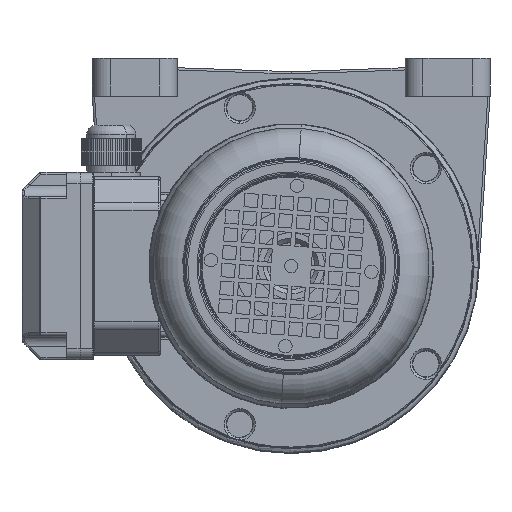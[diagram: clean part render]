
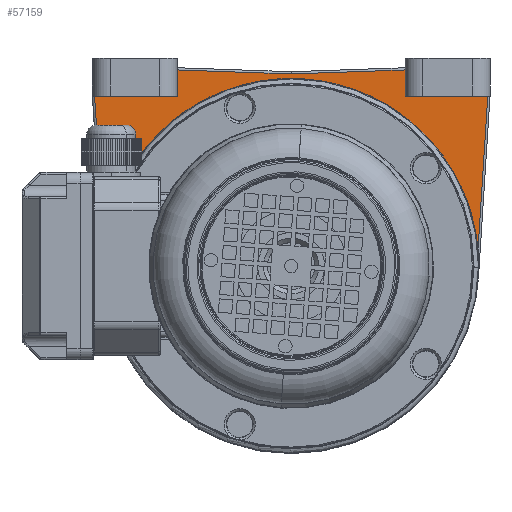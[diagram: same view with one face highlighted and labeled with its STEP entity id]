
A CAD part, front view. The second image highlights one B-rep face of the part: STEP entity #57159.
In plain terms, the highlighted planar face has unit normal (0, -1, 0).
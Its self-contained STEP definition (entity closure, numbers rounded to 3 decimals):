
#1699 = LINE ( 'NONE', #59298, #79760 ) ;
#1724 = CARTESIAN_POINT ( 'NONE',  ( -37.553, -29.796, 76. ) ) ;
#2265 = DIRECTION ( 'NONE',  ( 0.063, 0., 0.998 ) ) ;
#2788 = CARTESIAN_POINT ( 'NONE',  ( -37.588, -29.796, 87.782 ) ) ;
#4461 = CARTESIAN_POINT ( 'NONE',  ( 13.447, -29.796, 76. ) ) ;
#5100 = CARTESIAN_POINT ( 'NONE',  ( -37.553, -29.796, 0. ) ) ;
#5659 = VECTOR ( 'NONE', #51802, 1000. ) ;
#6047 = EDGE_CURVE ( 'NONE', #61006, #32088, #26697, .T. ) ;
#6315 = ORIENTED_EDGE ( 'NONE', *, *, #6047, .F. ) ;
#6642 = AXIS2_PLACEMENT_3D ( 'NONE', #61554, #12740, #35024 ) ;
#6677 = FACE_OUTER_BOUND ( 'NONE', #74402, .T. ) ;
#7714 = VERTEX_POINT ( 'NONE', #1724 ) ;
#8084 = ORIENTED_EDGE ( 'NONE', *, *, #60958, .T. ) ;
#8215 = ORIENTED_EDGE ( 'NONE', *, *, #44664, .T. ) ;
#11218 = CARTESIAN_POINT ( 'NONE',  ( 101.445, -29.796, 76. ) ) ;
#12345 = DIRECTION ( 'NONE',  ( -1., 0., 0. ) ) ;
#12740 = DIRECTION ( 'NONE',  ( 0., -1., 0. ) ) ;
#12978 = DIRECTION ( 'NONE',  ( 0., 0., 1. ) ) ;
#14942 = VECTOR ( 'NONE', #12345, 1000. ) ;
#15543 = DIRECTION ( 'NONE',  ( 1., 0., 0. ) ) ;
#16031 = LINE ( 'NONE', #86744, #5659 ) ;
#16122 = CARTESIAN_POINT ( 'NONE',  ( 64.447, -29.796, 76. ) ) ;
#19766 = EDGE_CURVE ( 'NONE', #61006, #91640, #90687, .T. ) ;
#23223 = LINE ( 'NONE', #2788, #38581 ) ;
#25053 = ORIENTED_EDGE ( 'NONE', *, *, #19766, .T. ) ;
#26621 = CARTESIAN_POINT ( 'NONE',  ( 13.447, -29.796, 85.999 ) ) ;
#26697 = CIRCLE ( 'NONE', #38558, 84. ) ;
#27799 = CARTESIAN_POINT ( 'NONE',  ( -70.205, -29.796, 7.632 ) ) ;
#28428 = VECTOR ( 'NONE', #77974, 1000. ) ;
#29119 = ORIENTED_EDGE ( 'NONE', *, *, #39868, .T. ) ;
#30282 = ORIENTED_EDGE ( 'NONE', *, *, #73202, .T. ) ;
#32088 = VERTEX_POINT ( 'NONE', #27799 ) ;
#32987 = CARTESIAN_POINT ( 'NONE',  ( -74.551, -29.796, 76. ) ) ;
#35024 = DIRECTION ( 'NONE',  ( 0., 0., 1. ) ) ;
#36326 = DIRECTION ( 'NONE',  ( -1., 0., 0. ) ) ;
#38558 = AXIS2_PLACEMENT_3D ( 'NONE', #58160, #63769, #36326 ) ;
#38581 = VECTOR ( 'NONE', #73006, 1000. ) ;
#39868 = EDGE_CURVE ( 'NONE', #82436, #32088, #16031, .T. ) ;
#39931 = CARTESIAN_POINT ( 'NONE',  ( -37.553, -29.796, 87.78 ) ) ;
#40203 = EDGE_CURVE ( 'NONE', #7714, #44825, #48289, .T. ) ;
#44664 = EDGE_CURVE ( 'NONE', #73553, #44825, #23223, .T. ) ;
#44825 = VERTEX_POINT ( 'NONE', #39931 ) ;
#45808 = VECTOR ( 'NONE', #15543, 1000. ) ;
#47439 = VECTOR ( 'NONE', #2265, 1000. ) ;
#48289 = LINE ( 'NONE', #5100, #51668 ) ;
#48573 = LINE ( 'NONE', #4461, #14942 ) ;
#50855 = LINE ( 'NONE', #79245, #45808 ) ;
#51246 = VERTEX_POINT ( 'NONE', #16122 ) ;
#51668 = VECTOR ( 'NONE', #12978, 1000. ) ;
#51802 = DIRECTION ( 'NONE',  ( 0.063, 0., -0.998 ) ) ;
#53135 = CARTESIAN_POINT ( 'NONE',  ( 64.447, -29.796, 87.78 ) ) ;
#57159 = ADVANCED_FACE ( 'NONE', ( #6677 ), #75989, .T. ) ;
#58160 = CARTESIAN_POINT ( 'NONE',  ( 13.447, -29.796, 0. ) ) ;
#59298 = CARTESIAN_POINT ( 'NONE',  ( 64.447, -29.796, 0. ) ) ;
#59781 = DIRECTION ( 'NONE',  ( 0., 0., 1. ) ) ;
#60958 = EDGE_CURVE ( 'NONE', #51246, #88897, #1699, .T. ) ;
#61006 = VERTEX_POINT ( 'NONE', #79793 ) ;
#61554 = CARTESIAN_POINT ( 'NONE',  ( 13.447, -29.796, 0. ) ) ;
#63769 = DIRECTION ( 'NONE',  ( 0., -1., 0. ) ) ;
#64960 = EDGE_CURVE ( 'NONE', #82436, #7714, #50855, .T. ) ;
#65952 = CARTESIAN_POINT ( 'NONE',  ( 101.449, -29.796, 76.063 ) ) ;
#66157 = ORIENTED_EDGE ( 'NONE', *, *, #82981, .T. ) ;
#67056 = ORIENTED_EDGE ( 'NONE', *, *, #64960, .F. ) ;
#73006 = DIRECTION ( 'NONE',  ( -0.999, 0., 0.035 ) ) ;
#73202 = EDGE_CURVE ( 'NONE', #91640, #51246, #48573, .T. ) ;
#73553 = VERTEX_POINT ( 'NONE', #26621 ) ;
#74402 = EDGE_LOOP ( 'NONE', ( #8084, #66157, #8215, #76068, #67056, #29119, #6315, #25053, #30282 ) ) ;
#75989 = PLANE ( 'NONE',  #6642 ) ;
#76068 = ORIENTED_EDGE ( 'NONE', *, *, #40203, .F. ) ;
#77043 = LINE ( 'NONE', #91471, #28428 ) ;
#77974 = DIRECTION ( 'NONE',  ( -0.999, 0., -0.035 ) ) ;
#79245 = CARTESIAN_POINT ( 'NONE',  ( 13.447, -29.796, 76. ) ) ;
#79760 = VECTOR ( 'NONE', #59781, 1000. ) ;
#79793 = CARTESIAN_POINT ( 'NONE',  ( 97.1, -29.796, 7.632 ) ) ;
#82436 = VERTEX_POINT ( 'NONE', #32987 ) ;
#82981 = EDGE_CURVE ( 'NONE', #88897, #73553, #77043, .T. ) ;
#86744 = CARTESIAN_POINT ( 'NONE',  ( -69.386, -29.796, -5.265 ) ) ;
#88897 = VERTEX_POINT ( 'NONE', #53135 ) ;
#90687 = LINE ( 'NONE', #65952, #47439 ) ;
#91471 = CARTESIAN_POINT ( 'NONE',  ( 13.482, -29.796, 86.001 ) ) ;
#91640 = VERTEX_POINT ( 'NONE', #11218 ) ;
